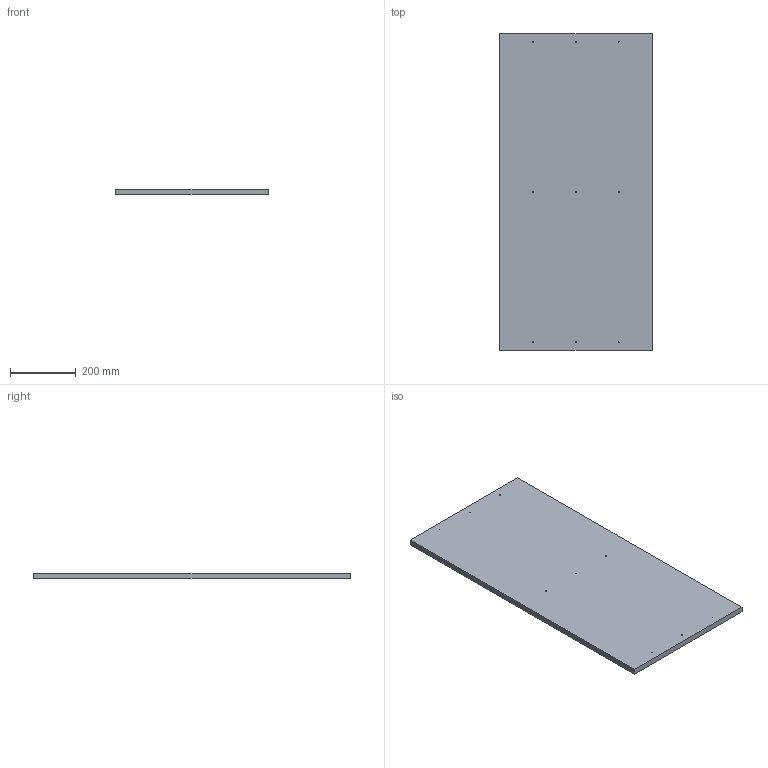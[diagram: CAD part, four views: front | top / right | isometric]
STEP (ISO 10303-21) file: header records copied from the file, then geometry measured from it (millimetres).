
FILE_DESCRIPTION(('Open CASCADE Model'),'2;1');
FILE_NAME('Open CASCADE Shape Model','2026-09-28T10:14:13',('Author'),( 'Open CASCADE'),'Open CASCADE STEP processor 7.9','Open CASCADE 7.9' ,'Unknown');
FILE_SCHEMA(('AUTOMOTIVE_DESIGN { 1 0 10303 214 1 1 1 1 }'));
Length unit declared in the file: millimetre
Products named in the file (1): Open CASCADE STEP translator 7.9 30
Bounding box: 464 x 964 x 18 mm (x, y, z)
Volume: 8050532.8 mm3; surface area: 947184 mm2
Topology: 1 solids, 1 shells, 15 faces, 39 edges, 26 vertices
Faces by surface type: cylinder 9, plane 6
Full cylindrical faces by diameter (mm): 2.5 x9
Entity records: 1024 total; most frequent: DIRECTION 167, CARTESIAN_POINT 159, LINE 81, VECTOR 81, ORIENTED_EDGE 78, PCURVE 78, DEFINITIONAL_REPRESENTATION 78, EDGE_CURVE 39
